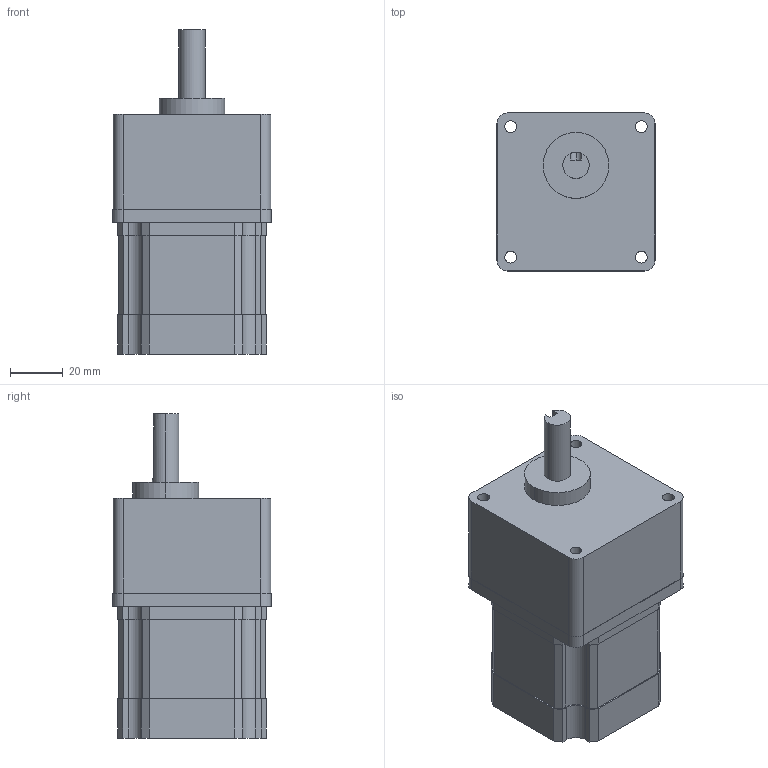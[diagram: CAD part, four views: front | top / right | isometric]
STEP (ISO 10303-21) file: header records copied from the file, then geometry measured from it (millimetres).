
FILE_DESCRIPTION (( 'STEP AP214' ), '1' );
FILE_NAME ('EXMK266-G2N-10K(k10).STEP', '2020-07-09T02:09:40', ( '' ), ( '' ), 'SwSTEP 2.0', 'SolidWorks 2017', '' );
FILE_SCHEMA (( 'AUTOMOTIVE_DESIGN' ));
Length unit declared in the file: millimetre
Products named in the file (1): EXMK266-G2N-10K(k10)
Bounding box: 60 x 60 x 123 mm (x, y, z)
Volume: 287931.5 mm3; surface area: 30693.8 mm2
Topology: 1 solids, 1 shells, 113 faces, 315 edges, 210 vertices
Faces by surface type: plane 79, cylinder 34
Entity records: 4055 total; most frequent: CARTESIAN_POINT 669, ORIENTED_EDGE 630, DIRECTION 608, EDGE_CURVE 315, LINE 246, VECTOR 246, VERTEX_POINT 210, AXIS2_PLACEMENT_3D 181
